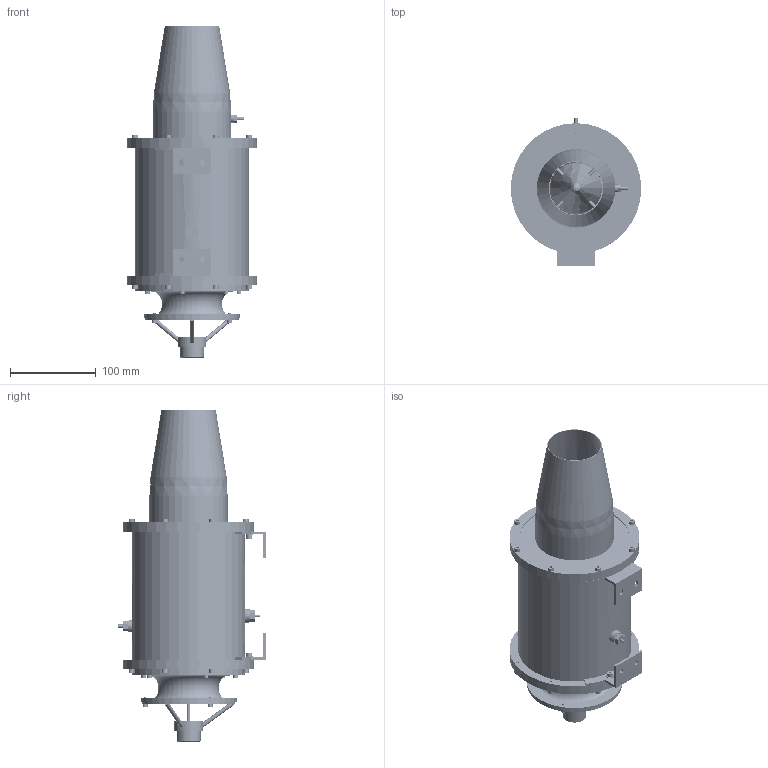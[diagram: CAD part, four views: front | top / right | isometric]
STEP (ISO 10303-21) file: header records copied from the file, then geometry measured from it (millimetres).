
FILE_DESCRIPTION(('Open CASCADE Model'),'2;1');
FILE_NAME('Open CASCADE Shape Model','2026-09-23T14:08:42',('Author'),( 'Open CASCADE'),'Open CASCADE STEP processor 7.9','Open CASCADE 7.9' ,'Unknown');
FILE_SCHEMA(('AUTOMOTIVE_DESIGN { 1 0 10303 214 1 1 1 1 }'));
Length unit declared in the file: millimetre
Products named in the file (51): TRD-300-rev4; cover; diffuser; starter; starter_mount; impeller; liner_outer; liner_inner; front_plate; evaporators; manifold; tunnel; heat_shield; fuel_fitting; standoffs; glow_plug; ngv; turbine_wheel; shroud_ring; nozzle; shaft; spacer_rear; bearing_front; bearing_rear; wave_spring; nut_front; nut_rear; bearing_housing_front; bearing_housing_rear; case; oring_cover; gasket_rear; washer_glow; washer_fuel; mount_lug; orings_rear; gasket_ngv; shield_front; slinger_rear; mount_lug_rear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
Assembly tree (50 placements, depth 2):
  TRD-300-rev4
    cover
    diffuser
    starter
    starter_mount
    impeller
    liner_outer
    liner_inner
    front_plate
    evaporators
    manifold
    tunnel
    heat_shield
    fuel_fitting
    standoffs
    glow_plug
    ngv
    turbine_wheel
    shroud_ring
    nozzle
    shaft
    spacer_rear
    bearing_front
    bearing_rear
    wave_spring
    nut_front
    nut_rear
    bearing_housing_front
    bearing_housing_rear
    case
    oring_cover
    gasket_rear
    washer_glow
    washer_fuel
    mount_lug
    orings_rear
    gasket_ngv
    shield_front
    slinger_rear
    mount_lug_rear
    screws_cover
    screws_rear
    screws_lug
    screws_diffuser
    screws_tunnel
    screws_ngv
    screws_starter
    nuts_standoff
    circlip_rear
    egt_probe
    screws_lug_rear
Bounding box: 152 x 172 x 387 mm (x, y, z)
Volume: 781699.8 mm3; surface area: 802317.2 mm2
Topology: 129 solids, 129 shells, 19683 faces, 49692 edges, 30445 vertices
Faces by surface type: bspline 11700, plane 5038, cone 1976, cylinder 915, torus 32, sphere 18, revolution 4
Full cylindrical faces by diameter (mm): 0.5 x1, 1.2 x1, 1.479 x90, 1.5 x8, 1.654 x108, 2 x13, 2.2 x1, 2.48 x12, 2.5 x54, 3 x3, 3.2 x12, 3.3 x42, 3.4 x21, 3.75 x12, 4 x5, 4.146 x18, 4.2 x4, 4.3 x4, 4.5 x37, 4.593 x12, 5 x3, 5.077 x18, 5.5 x23, 6 x7, 6.312 x12, 6.5 x1, 7 x32, 7.73 x12, 8 x14, 8.2 x7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
Entity records: 1462339 total; most frequent: CARTESIAN_POINT 604345, DIRECTION 107634, ORIENTED_EDGE 99348, PCURVE 99348, DEFINITIONAL_REPRESENTATION 99348, LINE 67162, VECTOR 67162, B_SPLINE_CURVE_WITH_KNOTS 65993
